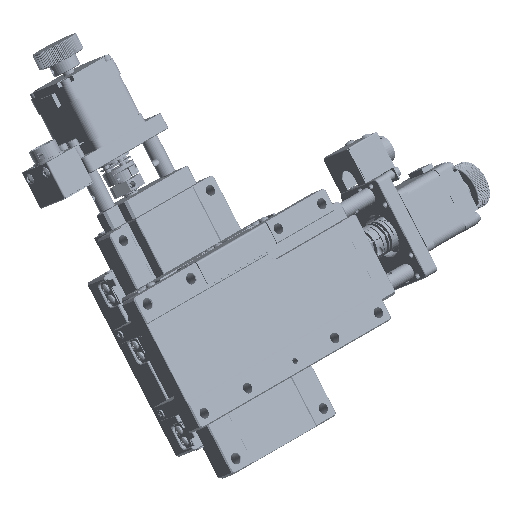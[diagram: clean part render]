
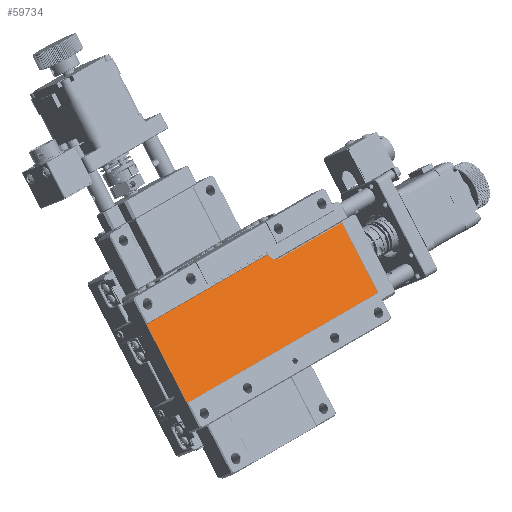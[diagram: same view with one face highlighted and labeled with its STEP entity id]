
A CAD part, isometric view. The second image highlights one B-rep face of the part: STEP entity #59734.
In plain terms, the highlighted planar face has unit normal (0, -0.761, 0.648).
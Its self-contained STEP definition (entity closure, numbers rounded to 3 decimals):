
#2828 = AXIS2_PLACEMENT_3D ( 'NONE', #85243, #20846, #10711 ) ;
#4887 = CARTESIAN_POINT ( 'NONE',  ( -1418.432, 242.918, -18.836 ) ) ;
#5084 = LINE ( 'NONE', #68487, #125782 ) ;
#6300 = LINE ( 'NONE', #57818, #36535 ) ;
#10711 = DIRECTION ( 'NONE',  ( -1., 0., 0. ) ) ;
#12559 = ORIENTED_EDGE ( 'NONE', *, *, #80111, .F. ) ;
#13784 = EDGE_CURVE ( 'NONE', #122180, #22299, #118080, .T. ) ;
#15003 = CARTESIAN_POINT ( 'NONE',  ( -1458.502, 245.381, -15.942 ) ) ;
#16526 = EDGE_CURVE ( 'NONE', #23945, #138051, #161088, .T. ) ;
#18952 = DIRECTION ( 'NONE',  ( 0., -0.648, -0.761 ) ) ;
#20846 = DIRECTION ( 'NONE',  ( 0., 0.761, -0.648 ) ) ;
#22299 = VERTEX_POINT ( 'NONE', #15003 ) ;
#23340 = AXIS2_PLACEMENT_3D ( 'NONE', #126486, #49413, #101169 ) ;
#23945 = VERTEX_POINT ( 'NONE', #154837 ) ;
#26374 = EDGE_LOOP ( 'NONE', ( #158440, #70679, #153043, #39516, #12559, #157755 ) ) ;
#29143 = VECTOR ( 'NONE', #135157, 1000. ) ;
#32385 = VECTOR ( 'NONE', #18952, 1000. ) ;
#32404 = VECTOR ( 'NONE', #86300, 1000. ) ;
#36535 = VECTOR ( 'NONE', #135698, 1000. ) ;
#39516 = ORIENTED_EDGE ( 'NONE', *, *, #16526, .T. ) ;
#48121 = LINE ( 'NONE', #98180, #32404 ) ;
#49413 = DIRECTION ( 'NONE',  ( 0., 0.761, -0.648 ) ) ;
#50016 = CARTESIAN_POINT ( 'NONE',  ( -1454.232, 242.918, -18.836 ) ) ;
#52046 = VERTEX_POINT ( 'NONE', #79449 ) ;
#57818 = CARTESIAN_POINT ( 'NONE',  ( -1418.232, 242.918, -18.836 ) ) ;
#59734 = ADVANCED_FACE ( 'NONE', ( #119992 ), #150331, .F. ) ;
#64701 = EDGE_CURVE ( 'NONE', #22299, #23945, #48121, .T. ) ;
#67669 = DIRECTION ( 'NONE',  ( -1., 0., 0. ) ) ;
#68487 = CARTESIAN_POINT ( 'NONE',  ( -1418.232, 222.047, -43.356 ) ) ;
#70679 = ORIENTED_EDGE ( 'NONE', *, *, #13784, .T. ) ;
#79449 = CARTESIAN_POINT ( 'NONE',  ( -1418.432, 222.047, -43.356 ) ) ;
#80111 = EDGE_CURVE ( 'NONE', #52046, #138051, #5084, .T. ) ;
#85243 = CARTESIAN_POINT ( 'NONE',  ( -1418.232, 222.047, -43.356 ) ) ;
#86300 = DIRECTION ( 'NONE',  ( -1., 0., 0. ) ) ;
#95525 = EDGE_CURVE ( 'NONE', #52046, #113328, #105685, .T. ) ;
#98180 = CARTESIAN_POINT ( 'NONE',  ( -1418.232, 245.381, -15.942 ) ) ;
#101169 = DIRECTION ( 'NONE',  ( 0., -0.648, -0.761 ) ) ;
#104921 = CARTESIAN_POINT ( 'NONE',  ( -1528.032, 222.047, -43.356 ) ) ;
#105531 = EDGE_CURVE ( 'NONE', #113328, #122180, #6300, .T. ) ;
#105685 = LINE ( 'NONE', #147833, #29143 ) ;
#113328 = VERTEX_POINT ( 'NONE', #4887 ) ;
#118080 = CIRCLE ( 'NONE', #23340, 4.3 ) ;
#119992 = FACE_OUTER_BOUND ( 'NONE', #26374, .T. ) ;
#122180 = VERTEX_POINT ( 'NONE', #50016 ) ;
#125782 = VECTOR ( 'NONE', #67669, 1000. ) ;
#126486 = CARTESIAN_POINT ( 'NONE',  ( -1454.232, 245.705, -15.561 ) ) ;
#135157 = DIRECTION ( 'NONE',  ( 0., 0.648, 0.761 ) ) ;
#135698 = DIRECTION ( 'NONE',  ( -1., 0., 0. ) ) ;
#138051 = VERTEX_POINT ( 'NONE', #104921 ) ;
#146727 = CARTESIAN_POINT ( 'NONE',  ( -1528.032, 214.269, -52.493 ) ) ;
#147833 = CARTESIAN_POINT ( 'NONE',  ( -1418.432, 214.269, -52.493 ) ) ;
#150331 = PLANE ( 'NONE',  #2828 ) ;
#153043 = ORIENTED_EDGE ( 'NONE', *, *, #64701, .T. ) ;
#154837 = CARTESIAN_POINT ( 'NONE',  ( -1528.032, 245.381, -15.942 ) ) ;
#157755 = ORIENTED_EDGE ( 'NONE', *, *, #95525, .T. ) ;
#158440 = ORIENTED_EDGE ( 'NONE', *, *, #105531, .T. ) ;
#161088 = LINE ( 'NONE', #146727, #32385 ) ;
